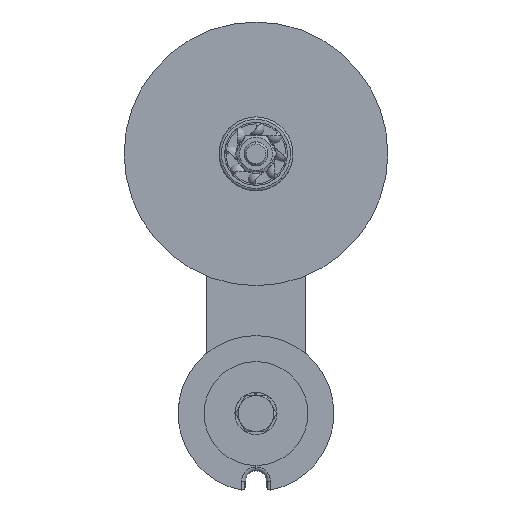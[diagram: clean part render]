
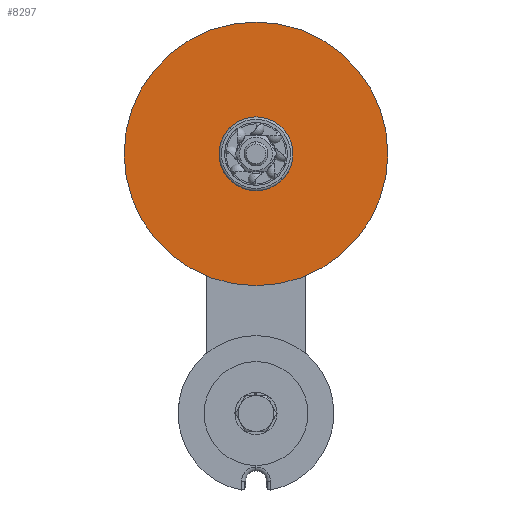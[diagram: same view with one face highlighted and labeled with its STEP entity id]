
A CAD part, front view. The second image highlights one B-rep face of the part: STEP entity #8297.
In plain terms, the highlighted planar face has unit normal (0, -1, 0) as drawn and (-1, 0, 0) by its records, which use the part's own axes.
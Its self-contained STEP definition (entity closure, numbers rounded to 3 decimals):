
#7543=CARTESIAN_POINT('',(-12.699,0.0,31.851));
#7544=VERTEX_POINT('',#7543);
#7560=CARTESIAN_POINT('',(-12.699,0.,-100.149));
#7561=VERTEX_POINT('',#7560);
#7568=CARTESIAN_POINT('',(-12.699,0.0,-34.149));
#7569=DIRECTION('',(-1.0,0.0,0.0));
#7570=DIRECTION('',(0.0,0.0,1.0));
#7571=AXIS2_PLACEMENT_3D('',#7568,#7569,#7570);
#7572=CIRCLE('',#7571,66.0);
#7573=EDGE_CURVE('',#7544,#7561,#7572,.T.);
#7946=CARTESIAN_POINT('',(-12.699,0.,-52.649));
#7947=VERTEX_POINT('',#7946);
#7963=CARTESIAN_POINT('',(-12.699,0.,-15.649));
#7964=VERTEX_POINT('',#7963);
#7971=CARTESIAN_POINT('',(-12.699,0.0,-34.149));
#7972=DIRECTION('',(1.0,0.0,0.0));
#7973=DIRECTION('',(0.0,0.0,-1.0));
#7974=AXIS2_PLACEMENT_3D('',#7971,#7972,#7973);
#7975=CIRCLE('',#7974,18.5);
#7976=EDGE_CURVE('',#7947,#7964,#7975,.T.);
#7987=CARTESIAN_POINT('',(-12.699,0.0,-34.149));
#7988=DIRECTION('',(1.0,0.0,0.0));
#7989=DIRECTION('',(0.0,0.0,-1.0));
#7990=AXIS2_PLACEMENT_3D('',#7987,#7988,#7989);
#7991=CIRCLE('',#7990,18.5);
#7992=EDGE_CURVE('',#7964,#7947,#7991,.T.);
#8272=CARTESIAN_POINT('',(-12.699,0.0,-34.149));
#8273=DIRECTION('',(-1.0,0.0,0.0));
#8274=DIRECTION('',(0.0,0.0,1.0));
#8275=AXIS2_PLACEMENT_3D('',#8272,#8273,#8274);
#8276=CIRCLE('',#8275,66.0);
#8277=EDGE_CURVE('',#7561,#7544,#8276,.T.);
#8284=CARTESIAN_POINT('',(-12.699,0.0,-1.149));
#8285=DIRECTION('',(-1.0,0.0,0.0));
#8286=DIRECTION('',(0.0,0.0,1.0));
#8287=AXIS2_PLACEMENT_3D('',#8284,#8285,#8286);
#8288=PLANE('',#8287);
#8289=ORIENTED_EDGE('',*,*,#7573,.T.);
#8290=ORIENTED_EDGE('',*,*,#8277,.T.);
#8291=EDGE_LOOP('',(#8289,#8290));
#8292=FACE_OUTER_BOUND('',#8291,.T.);
#8293=ORIENTED_EDGE('',*,*,#7992,.T.);
#8294=ORIENTED_EDGE('',*,*,#7976,.T.);
#8295=EDGE_LOOP('',(#8293,#8294));
#8296=FACE_BOUND('',#8295,.T.);
#8297=ADVANCED_FACE('',(#8292,#8296),#8288,.T.);
